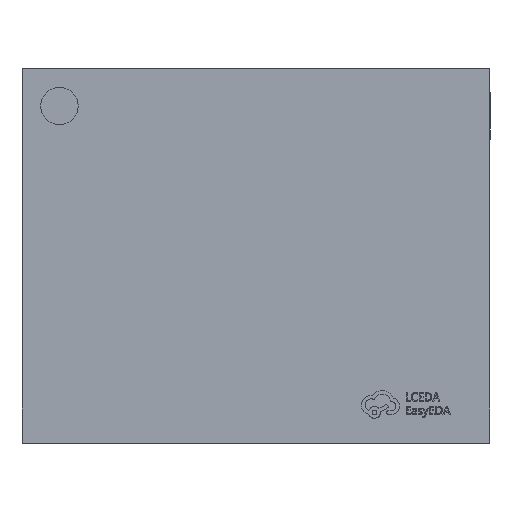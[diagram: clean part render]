
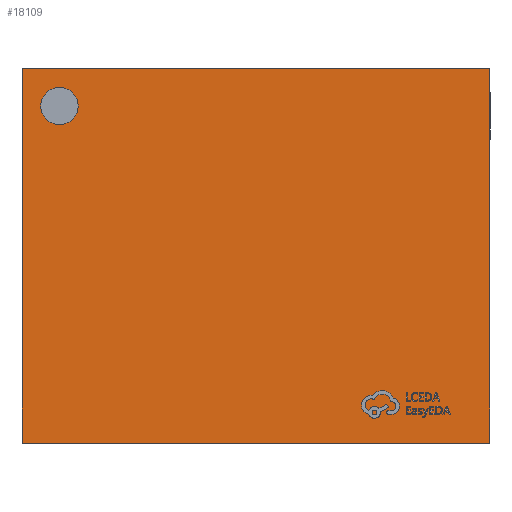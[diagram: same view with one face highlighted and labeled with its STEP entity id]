
A CAD part, top view. The second image highlights one B-rep face of the part: STEP entity #18109.
In plain terms, the highlighted planar face has unit normal (0, 0, 1).
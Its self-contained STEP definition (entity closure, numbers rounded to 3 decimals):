
#30 = DIRECTION ( 'NONE',  ( -1., 0., 0. ) ) ;
#209 = ORIENTED_EDGE ( 'NONE', *, *, #18262, .T. ) ;
#847 = EDGE_CURVE ( 'NONE', #21599, #14900, #22394, .T. ) ;
#1777 = DIRECTION ( 'NONE',  ( 1., 0., 0. ) ) ;
#2813 = EDGE_CURVE ( 'NONE', #7056, #22322, #19150, .T. ) ;
#3445 = CARTESIAN_POINT ( 'NONE',  ( -1.25, 1., 1. ) ) ;
#3920 = CARTESIAN_POINT ( 'NONE',  ( -1.05, 0.8, 1. ) ) ;
#4111 = LINE ( 'NONE', #6018, #8474 ) ;
#4386 = CARTESIAN_POINT ( 'NONE',  ( 1.25, -1., 1. ) ) ;
#5012 = CARTESIAN_POINT ( 'NONE',  ( -1.25, 1., 1. ) ) ;
#5292 = CARTESIAN_POINT ( 'NONE',  ( 1.25, 1., 1. ) ) ;
#5912 = CARTESIAN_POINT ( 'NONE',  ( 0., 0., 1. ) ) ;
#6018 = CARTESIAN_POINT ( 'NONE',  ( -1.25, 1., 1. ) ) ;
#6103 = AXIS2_PLACEMENT_3D ( 'NONE', #5912, #13516, #1777 ) ;
#6227 = EDGE_CURVE ( 'NONE', #8286, #15290, #4111, .T. ) ;
#6458 = CARTESIAN_POINT ( 'NONE',  ( -1.25, -1., 1. ) ) ;
#6992 = ORIENTED_EDGE ( 'NONE', *, *, #16473, .F. ) ;
#7056 = VERTEX_POINT ( 'NONE', #6458 ) ;
#7709 = DIRECTION ( 'NONE',  ( 1., 0., 0. ) ) ;
#8286 = VERTEX_POINT ( 'NONE', #18617 ) ;
#8410 = EDGE_LOOP ( 'NONE', ( #22243, #6992 ) ) ;
#8474 = VECTOR ( 'NONE', #30, 1000. ) ;
#8837 = CARTESIAN_POINT ( 'NONE',  ( -1.15, 0.8, 1. ) ) ;
#9477 = ORIENTED_EDGE ( 'NONE', *, *, #6227, .T. ) ;
#9543 = VECTOR ( 'NONE', #23717, 1000. ) ;
#9648 = FACE_BOUND ( 'NONE', #8410, .T. ) ;
#10037 = ORIENTED_EDGE ( 'NONE', *, *, #2813, .T. ) ;
#11687 = AXIS2_PLACEMENT_3D ( 'NONE', #3920, #23472, #17999 ) ;
#11836 = VECTOR ( 'NONE', #7709, 1000. ) ;
#13516 = DIRECTION ( 'NONE',  ( 0., 0., 1. ) ) ;
#14178 = EDGE_CURVE ( 'NONE', #22322, #8286, #19994, .T. ) ;
#14825 = EDGE_LOOP ( 'NONE', ( #15892, #9477, #209, #10037 ) ) ;
#14900 = VERTEX_POINT ( 'NONE', #8837 ) ;
#15211 = CARTESIAN_POINT ( 'NONE',  ( -1.25, -1., 1. ) ) ;
#15290 = VERTEX_POINT ( 'NONE', #3445 ) ;
#15640 = FACE_OUTER_BOUND ( 'NONE', #14825, .T. ) ;
#15892 = ORIENTED_EDGE ( 'NONE', *, *, #14178, .T. ) ;
#16473 = EDGE_CURVE ( 'NONE', #14900, #21599, #21571, .T. ) ;
#16818 = AXIS2_PLACEMENT_3D ( 'NONE', #17888, #20007, #20117 ) ;
#17888 = CARTESIAN_POINT ( 'NONE',  ( -1.05, 0.8, 1. ) ) ;
#17999 = DIRECTION ( 'NONE',  ( 1., 0., 0. ) ) ;
#18109 = ADVANCED_FACE ( 'NONE', ( #9648, #15640 ), #22716, .T. ) ;
#18262 = EDGE_CURVE ( 'NONE', #15290, #7056, #24173, .T. ) ;
#18591 = DIRECTION ( 'NONE',  ( 0., -1., 0. ) ) ;
#18617 = CARTESIAN_POINT ( 'NONE',  ( 1.25, 1., 1. ) ) ;
#19150 = LINE ( 'NONE', #15211, #11836 ) ;
#19994 = LINE ( 'NONE', #5292, #9543 ) ;
#20007 = DIRECTION ( 'NONE',  ( 0., 0., 1. ) ) ;
#20117 = DIRECTION ( 'NONE',  ( 1., 0., 0. ) ) ;
#21216 = VECTOR ( 'NONE', #18591, 1000. ) ;
#21571 = CIRCLE ( 'NONE', #16818, 0.1 ) ;
#21599 = VERTEX_POINT ( 'NONE', #23309 ) ;
#22243 = ORIENTED_EDGE ( 'NONE', *, *, #847, .F. ) ;
#22322 = VERTEX_POINT ( 'NONE', #4386 ) ;
#22394 = CIRCLE ( 'NONE', #11687, 0.1 ) ;
#22716 = PLANE ( 'NONE',  #6103 ) ;
#23309 = CARTESIAN_POINT ( 'NONE',  ( -0.95, 0.8, 1. ) ) ;
#23472 = DIRECTION ( 'NONE',  ( 0., 0., 1. ) ) ;
#23717 = DIRECTION ( 'NONE',  ( 0., 1., 0. ) ) ;
#24173 = LINE ( 'NONE', #5012, #21216 ) ;
